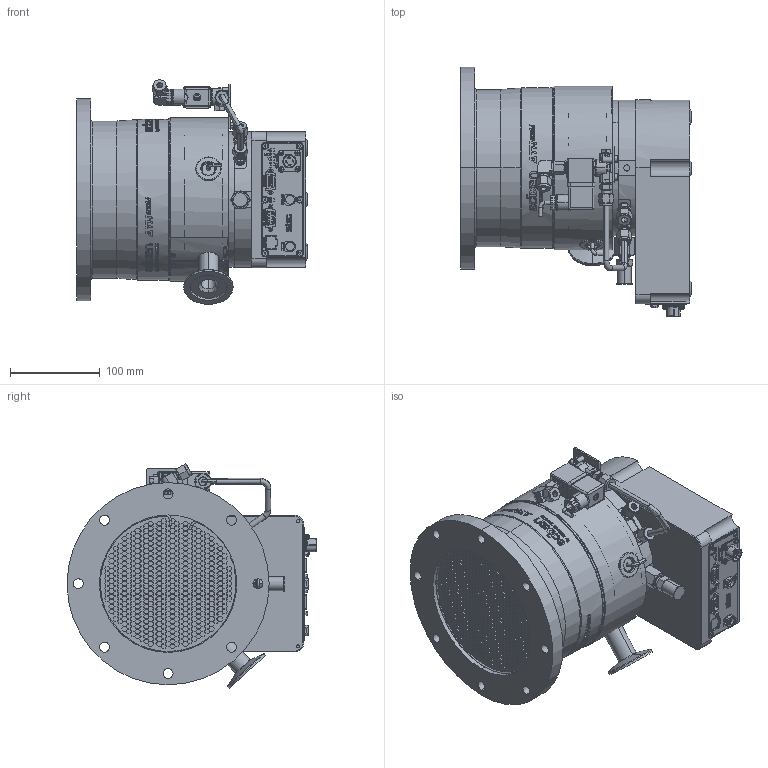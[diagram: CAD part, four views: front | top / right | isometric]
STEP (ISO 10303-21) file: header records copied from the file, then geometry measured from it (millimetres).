
FILE_DESCRIPTION((''),'2;1');
FILE_NAME('POMPE-VIDE-POUR-ENVEL_SW0002','2020-03-09T',('rcriado'),(''),'PRO/ENGINEER BY PARAMETRIC TECHNOLOGY CORPORATION, 2015280','PRO/ENGINEER BY PARAMETRIC TECHNOLOGY CORPORATION, 2015280','');
FILE_SCHEMA(('CONFIG_CONTROL_DESIGN'));
Products named in the file (1): POMPE-VIDE-POUR-ENVEL_SW0002
Bounding box: 256.99 x 278.25 x 250.1 mm (x, y, z)
Volume: 6509944.4 mm3; surface area: 404700.1 mm2
Topology: 2 solids, 2 shells, 9849 faces, 26018 edges, 17167 vertices
Faces by surface type: plane 7265, bspline 1273, cylinder 746, cone 262, extrusion 212, torus 72, sphere 19
Entity records: 348960 total; most frequent: CARTESIAN_POINT 112419, ORIENTED_EDGE 51998, DIRECTION 42190, EDGE_CURVE 25999, VECTOR 20606, LINE 20394, VERTEX_POINT 17167, EDGE_LOOP 10918
